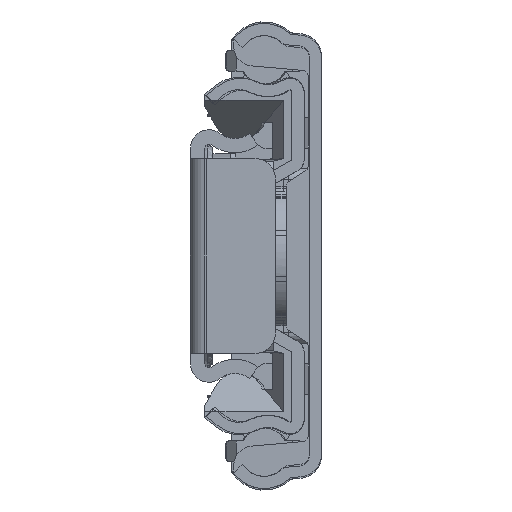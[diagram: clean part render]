
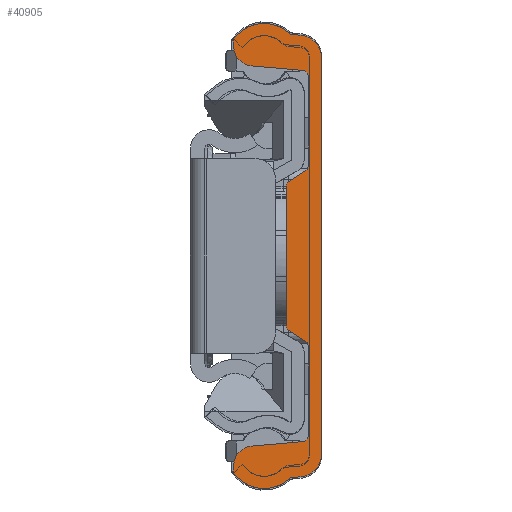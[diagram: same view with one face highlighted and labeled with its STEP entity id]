
A CAD part, left-side view. The second image highlights one B-rep face of the part: STEP entity #40905.
In plain terms, the highlighted planar face has unit normal (-1, 0, 0) as drawn and (0, 0, -1) by its records, which use the part's own axes.
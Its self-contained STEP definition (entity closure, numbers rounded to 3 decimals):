
#1796=PLANE('',#43856);
#3287=FACE_OUTER_BOUND('',#5674,.T.);
#5674=EDGE_LOOP('',(#31387,#31388,#31389,#31390,#31391,#31392,#31393,#31394,
#31395,#31396,#31397,#31398,#31399,#31400,#31401,#31402,#31403,#31404,#31405,
#31406,#31407,#31408,#31409,#31410,#31411,#31412));
#8838=LINE('',#70668,#12592);
#8841=LINE('',#70674,#12595);
#8844=LINE('',#70680,#12598);
#8847=LINE('',#70686,#12601);
#8854=LINE('',#70703,#12608);
#8857=LINE('',#70709,#12611);
#8860=LINE('',#70715,#12614);
#8865=LINE('',#70727,#12619);
#8885=LINE('',#70796,#12639);
#8886=LINE('',#70797,#12640);
#8887=LINE('',#70798,#12641);
#8888=LINE('',#70799,#12642);
#8889=LINE('',#70801,#12643);
#8890=LINE('',#70802,#12644);
#12592=VECTOR('',#50925,1000.);
#12595=VECTOR('',#50930,1000.);
#12598=VECTOR('',#50935,1000.);
#12601=VECTOR('',#50940,1000.);
#12608=VECTOR('',#50959,1000.);
#12611=VECTOR('',#50964,1000.);
#12614=VECTOR('',#50969,1000.);
#12619=VECTOR('',#50982,1000.);
#12639=VECTOR('',#51044,1000.);
#12640=VECTOR('',#51045,1000.);
#12641=VECTOR('',#51046,1000.);
#12642=VECTOR('',#51047,1000.);
#12643=VECTOR('',#51048,1000.);
#12644=VECTOR('',#51049,1000.);
#15206=CIRCLE('',#43790,3.65);
#15233=CIRCLE('',#43828,2.);
#15234=CIRCLE('',#43831,2.);
#15235=CIRCLE('',#43837,2.2);
#15236=CIRCLE('',#43840,2.2);
#15237=CIRCLE('',#43842,3.65);
#15246=CIRCLE('',#43855,0.5);
#15247=CIRCLE('',#43857,0.5);
#15248=CIRCLE('',#43858,0.5);
#15249=CIRCLE('',#43859,0.5);
#15250=CIRCLE('',#43860,0.5);
#15251=CIRCLE('',#43861,0.5);
#18091=VERTEX_POINT('',#67735);
#18092=VERTEX_POINT('',#67736);
#18153=VERTEX_POINT('',#70664);
#18154=VERTEX_POINT('',#70666);
#18155=VERTEX_POINT('',#70670);
#18156=VERTEX_POINT('',#70672);
#18157=VERTEX_POINT('',#70676);
#18158=VERTEX_POINT('',#70678);
#18159=VERTEX_POINT('',#70682);
#18160=VERTEX_POINT('',#70684);
#18161=VERTEX_POINT('',#70688);
#18162=VERTEX_POINT('',#70695);
#18163=VERTEX_POINT('',#70697);
#18164=VERTEX_POINT('',#70701);
#18165=VERTEX_POINT('',#70705);
#18166=VERTEX_POINT('',#70707);
#18167=VERTEX_POINT('',#70711);
#18168=VERTEX_POINT('',#70713);
#18169=VERTEX_POINT('',#70719);
#18170=VERTEX_POINT('',#70721);
#18171=VERTEX_POINT('',#70725);
#18172=VERTEX_POINT('',#70729);
#18173=VERTEX_POINT('',#70733);
#18174=VERTEX_POINT('',#70735);
#18199=VERTEX_POINT('',#70795);
#18200=VERTEX_POINT('',#70800);
#22817=EDGE_CURVE('',#18091,#18092,#15206,.T.);
#22895=EDGE_CURVE('',#18154,#18153,#8838,.T.);
#22898=EDGE_CURVE('',#18156,#18155,#8841,.T.);
#22901=EDGE_CURVE('',#18158,#18157,#8844,.T.);
#22904=EDGE_CURVE('',#18160,#18159,#8847,.T.);
#22905=EDGE_CURVE('',#18159,#18161,#15233,.T.);
#22910=EDGE_CURVE('',#18162,#18163,#15234,.T.);
#22913=EDGE_CURVE('',#18163,#18164,#8854,.T.);
#22916=EDGE_CURVE('',#18166,#18165,#8857,.T.);
#22919=EDGE_CURVE('',#18168,#18167,#8860,.T.);
#22922=EDGE_CURVE('',#18169,#18170,#15235,.T.);
#22925=EDGE_CURVE('',#18171,#18170,#8865,.T.);
#22926=EDGE_CURVE('',#18171,#18172,#15236,.T.);
#22929=EDGE_CURVE('',#18173,#18174,#15237,.T.);
#22955=EDGE_CURVE('',#18153,#18156,#15246,.T.);
#22956=EDGE_CURVE('',#18154,#18167,#15247,.T.);
#22957=EDGE_CURVE('',#18168,#18165,#15248,.T.);
#22958=EDGE_CURVE('',#18166,#18164,#15249,.T.);
#22959=EDGE_CURVE('',#18162,#18199,#8885,.T.);
#22960=EDGE_CURVE('',#18199,#18174,#8886,.T.);
#22961=EDGE_CURVE('',#18173,#18172,#8887,.T.);
#22962=EDGE_CURVE('',#18169,#18092,#8888,.T.);
#22963=EDGE_CURVE('',#18091,#18200,#8889,.T.);
#22964=EDGE_CURVE('',#18200,#18161,#8890,.T.);
#22965=EDGE_CURVE('',#18160,#18157,#15250,.T.);
#22966=EDGE_CURVE('',#18158,#18155,#15251,.T.);
#31387=ORIENTED_EDGE('',*,*,#22955,.F.);
#31388=ORIENTED_EDGE('',*,*,#22895,.F.);
#31389=ORIENTED_EDGE('',*,*,#22956,.T.);
#31390=ORIENTED_EDGE('',*,*,#22919,.F.);
#31391=ORIENTED_EDGE('',*,*,#22957,.T.);
#31392=ORIENTED_EDGE('',*,*,#22916,.F.);
#31393=ORIENTED_EDGE('',*,*,#22958,.T.);
#31394=ORIENTED_EDGE('',*,*,#22913,.F.);
#31395=ORIENTED_EDGE('',*,*,#22910,.F.);
#31396=ORIENTED_EDGE('',*,*,#22959,.T.);
#31397=ORIENTED_EDGE('',*,*,#22960,.T.);
#31398=ORIENTED_EDGE('',*,*,#22929,.F.);
#31399=ORIENTED_EDGE('',*,*,#22961,.T.);
#31400=ORIENTED_EDGE('',*,*,#22926,.F.);
#31401=ORIENTED_EDGE('',*,*,#22925,.T.);
#31402=ORIENTED_EDGE('',*,*,#22922,.F.);
#31403=ORIENTED_EDGE('',*,*,#22962,.T.);
#31404=ORIENTED_EDGE('',*,*,#22817,.F.);
#31405=ORIENTED_EDGE('',*,*,#22963,.T.);
#31406=ORIENTED_EDGE('',*,*,#22964,.T.);
#31407=ORIENTED_EDGE('',*,*,#22905,.F.);
#31408=ORIENTED_EDGE('',*,*,#22904,.F.);
#31409=ORIENTED_EDGE('',*,*,#22965,.T.);
#31410=ORIENTED_EDGE('',*,*,#22901,.F.);
#31411=ORIENTED_EDGE('',*,*,#22966,.T.);
#31412=ORIENTED_EDGE('',*,*,#22898,.F.);
#40905=ADVANCED_FACE('',(#3287),#1796,.T.);
#43790=AXIS2_PLACEMENT_3D('',#67737,#50814,#50815);
#43828=AXIS2_PLACEMENT_3D('',#70689,#50943,#50944);
#43831=AXIS2_PLACEMENT_3D('',#70698,#50953,#50954);
#43837=AXIS2_PLACEMENT_3D('',#70722,#50976,#50977);
#43840=AXIS2_PLACEMENT_3D('',#70730,#50985,#50986);
#43842=AXIS2_PLACEMENT_3D('',#70736,#50991,#50992);
#43855=AXIS2_PLACEMENT_3D('',#70790,#51034,#51035);
#43856=AXIS2_PLACEMENT_3D('',#70791,#51036,#51037);
#43857=AXIS2_PLACEMENT_3D('',#70792,#51038,#51039);
#43858=AXIS2_PLACEMENT_3D('',#70793,#51040,#51041);
#43859=AXIS2_PLACEMENT_3D('',#70794,#51042,#51043);
#43860=AXIS2_PLACEMENT_3D('',#70803,#51050,#51051);
#43861=AXIS2_PLACEMENT_3D('',#70804,#51052,#51053);
#50814=DIRECTION('center_axis',(0.,0.,1.));
#50815=DIRECTION('ref_axis',(1.,0.,0.));
#50925=DIRECTION('',(1.,0.,0.));
#50930=DIRECTION('',(0.546,0.838,0.));
#50935=DIRECTION('',(1.,0.,0.));
#50940=DIRECTION('',(0.087,-0.996,0.));
#50943=DIRECTION('center_axis',(0.,0.,1.));
#50944=DIRECTION('ref_axis',(-1.,0.,0.));
#50953=DIRECTION('center_axis',(0.,0.,1.));
#50954=DIRECTION('ref_axis',(-1.,0.,0.));
#50959=DIRECTION('',(0.087,0.996,0.));
#50964=DIRECTION('',(1.,0.,0.));
#50969=DIRECTION('',(0.546,-0.838,0.));
#50976=DIRECTION('center_axis',(0.,0.,1.));
#50977=DIRECTION('ref_axis',(1.,0.,0.));
#50982=DIRECTION('',(1.,0.,0.));
#50985=DIRECTION('center_axis',(0.,0.,1.));
#50986=DIRECTION('ref_axis',(1.,0.,0.));
#50991=DIRECTION('center_axis',(0.,0.,1.));
#50992=DIRECTION('ref_axis',(1.,0.,0.));
#51034=DIRECTION('center_axis',(0.,0.,1.));
#51035=DIRECTION('ref_axis',(-1.,0.,0.));
#51036=DIRECTION('center_axis',(0.,0.,-1.));
#51037=DIRECTION('ref_axis',(-1.,0.,0.));
#51038=DIRECTION('center_axis',(0.,0.,-1.));
#51039=DIRECTION('ref_axis',(-1.,0.,0.));
#51040=DIRECTION('center_axis',(0.,0.,1.));
#51041=DIRECTION('ref_axis',(-1.,0.,0.));
#51042=DIRECTION('center_axis',(0.,0.,1.));
#51043=DIRECTION('ref_axis',(-1.,0.,0.));
#51044=DIRECTION('',(-1.,0.,0.));
#51045=DIRECTION('',(-0.707,0.708,0.));
#51046=DIRECTION('',(0.087,0.996,0.));
#51047=DIRECTION('',(0.087,-0.996,0.));
#51048=DIRECTION('',(-0.707,-0.708,0.));
#51049=DIRECTION('',(-1.,0.,0.));
#51050=DIRECTION('center_axis',(0.,0.,1.));
#51051=DIRECTION('ref_axis',(-1.,0.,0.));
#51052=DIRECTION('center_axis',(0.,0.,1.));
#51053=DIRECTION('ref_axis',(-1.,0.,0.));
#67735=CARTESIAN_POINT('',(21.633,-6.979,-127.55));
#67736=CARTESIAN_POINT('',(21.631,-1.819,-127.55));
#67737=CARTESIAN_POINT('Origin',(19.05,-4.4,-127.55));
#70664=CARTESIAN_POINT('',(6.829,-2.25,-127.55));
#70666=CARTESIAN_POINT('',(-6.829,-2.25,-127.55));
#70668=CARTESIAN_POINT('',(-6.829,-2.25,-127.55));
#70670=CARTESIAN_POINT('',(8.352,-0.327,-127.55));
#70672=CARTESIAN_POINT('',(7.248,-2.023,-127.55));
#70674=CARTESIAN_POINT('',(7.248,-2.023,-127.55));
#70676=CARTESIAN_POINT('',(17.61,-0.1,-127.55));
#70678=CARTESIAN_POINT('',(8.771,-0.1,-127.55));
#70680=CARTESIAN_POINT('',(8.771,-0.1,-127.55));
#70682=CARTESIAN_POINT('',(18.547,-5.574,-127.55));
#70684=CARTESIAN_POINT('',(18.108,-0.556,-127.55));
#70686=CARTESIAN_POINT('',(18.108,-0.556,-127.55));
#70688=CARTESIAN_POINT('',(20.539,-7.4,-127.55));
#70689=CARTESIAN_POINT('Origin',(20.539,-5.4,-127.55));
#70695=CARTESIAN_POINT('',(-20.539,-7.4,-127.55));
#70697=CARTESIAN_POINT('',(-18.547,-5.574,-127.55));
#70698=CARTESIAN_POINT('Origin',(-20.539,-5.4,-127.55));
#70701=CARTESIAN_POINT('',(-18.108,-0.556,-127.55));
#70703=CARTESIAN_POINT('',(-18.547,-5.574,-127.55));
#70705=CARTESIAN_POINT('',(-8.771,-0.1,-127.55));
#70707=CARTESIAN_POINT('',(-17.61,-0.1,-127.55));
#70709=CARTESIAN_POINT('',(-17.61,-0.1,-127.55));
#70711=CARTESIAN_POINT('',(-7.248,-2.023,-127.55));
#70713=CARTESIAN_POINT('',(-8.352,-0.327,-127.55));
#70715=CARTESIAN_POINT('',(-8.352,-0.327,-127.55));
#70719=CARTESIAN_POINT('',(21.543,-0.808,-127.55));
#70721=CARTESIAN_POINT('',(19.351,1.2,-127.55));
#70722=CARTESIAN_POINT('Origin',(19.351,-1.,-127.55));
#70725=CARTESIAN_POINT('',(-19.351,1.2,-127.55));
#70727=CARTESIAN_POINT('',(-19.351,1.2,-127.55));
#70729=CARTESIAN_POINT('',(-21.543,-0.808,-127.55));
#70730=CARTESIAN_POINT('Origin',(-19.351,-1.,-127.55));
#70733=CARTESIAN_POINT('',(-21.631,-1.819,-127.55));
#70735=CARTESIAN_POINT('',(-21.633,-6.979,-127.55));
#70736=CARTESIAN_POINT('Origin',(-19.05,-4.4,-127.55));
#70790=CARTESIAN_POINT('Origin',(6.829,-1.75,-127.55));
#70791=CARTESIAN_POINT('Origin',(22.972,-7.4,-127.55));
#70792=CARTESIAN_POINT('Origin',(-6.829,-1.75,-127.55));
#70793=CARTESIAN_POINT('Origin',(-8.771,-0.6,-127.55));
#70794=CARTESIAN_POINT('Origin',(-17.61,-0.6,-127.55));
#70795=CARTESIAN_POINT('',(-21.213,-7.4,-127.55));
#70796=CARTESIAN_POINT('',(22.972,-7.4,-127.55));
#70797=CARTESIAN_POINT('',(-21.213,-7.4,-127.55));
#70798=CARTESIAN_POINT('',(-21.631,-1.819,-127.55));
#70799=CARTESIAN_POINT('',(21.543,-0.808,-127.55));
#70800=CARTESIAN_POINT('',(21.213,-7.4,-127.55));
#70801=CARTESIAN_POINT('',(21.633,-6.979,-127.55));
#70802=CARTESIAN_POINT('',(22.972,-7.4,-127.55));
#70803=CARTESIAN_POINT('Origin',(17.61,-0.6,-127.55));
#70804=CARTESIAN_POINT('Origin',(8.771,-0.6,-127.55));
